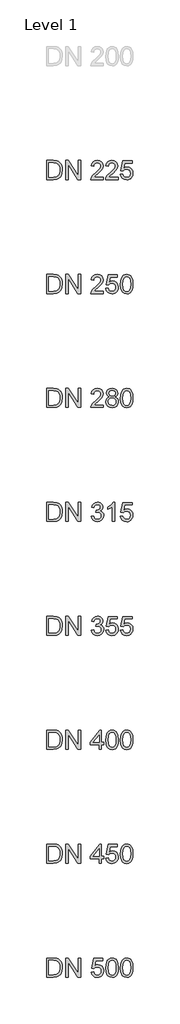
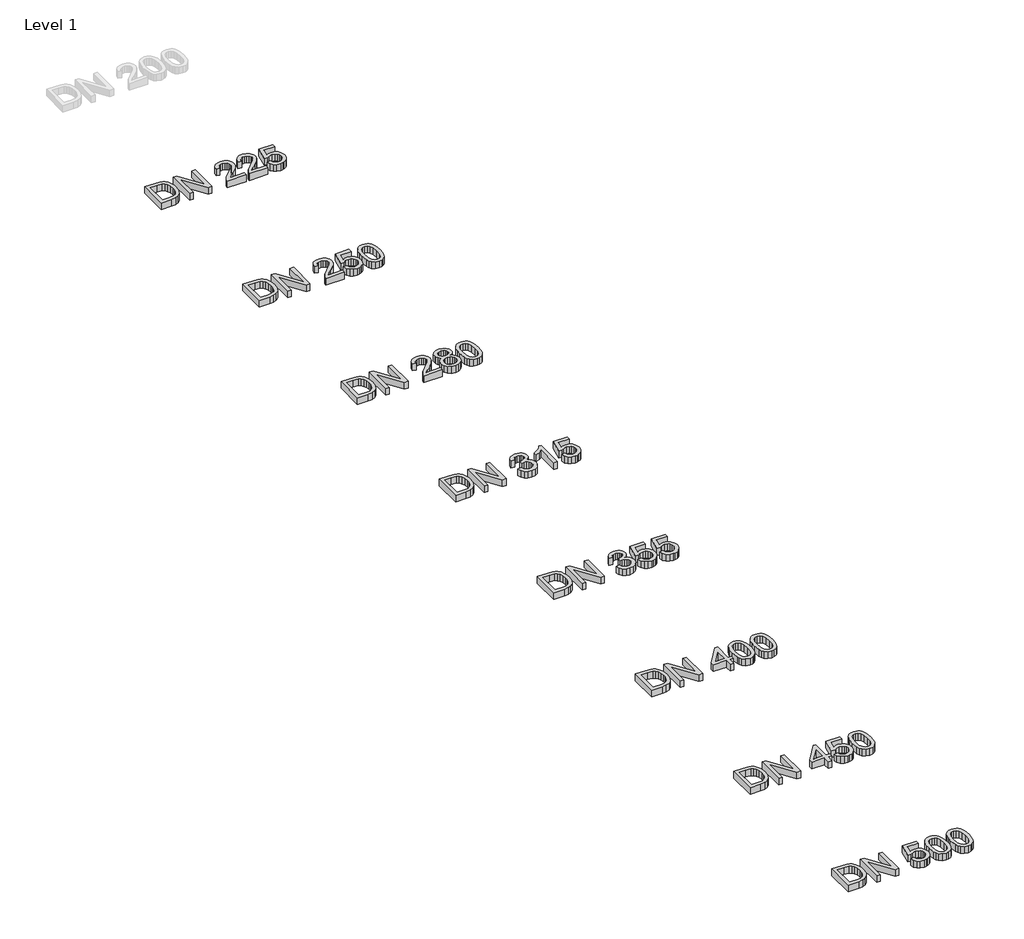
# One storey, part 12 of 17: 8 proxies.
"""IFC4 building model written with IfcOpenShell, lengths in millimetres."""

from ifc_helpers import new_model, si_unit, origin, origin_with_axes, place, context, project, spatial, polyline, outline, extrude, element, save

model = new_model("IFC4")

# Units and contexts
model_context = context("Model", 3, world=origin())
ifc_project = project(units=[si_unit("LENGTHUNIT", "METRE", prefix="MILLI")], contexts=[model_context])

# Site, building, storey
site = spatial("IfcSite", under=ifc_project)
building = spatial("IfcBuilding", under=site)
storey = spatial("IfcBuildingStorey", under=building, Name="Level 1", Elevation=0.0)

# Proxies
placement = place(None, origin())
element("IfcBuildingElementProxy", 1, Name="200mm Arial", ObjectType="200mm Arial", at=placement, inside=storey, context=model_context, shape_type="SweptSolid", body=[
    extrude(outline(polyline([(25539.3076926, -15113.949573), (25539.3076926, -14913.0369527), (25608.6166605, -14913.0369527), (25644.4728923, -14915.9309577), (25660.4880218, -14921.5105013), (25674.0015538, -14930.302881), (25687.8952305, -14945.606772), (25697.7912562, -14964.6385338), (25703.7141563, -14987.0302846), (25705.6884563, -15012.4141423), (25700.3419047, -15052.9547382), (25686.6076435, -15082.2136195), (25668.2625947, -15100.436041), (25644.2521631, -15110.5160077), (25611.9521239, -15113.949573), (25539.3076926, -15113.949573)]), holes=[polyline([(25564.4217702, -15088.8354954), (25608.8619152, -15088.8354954), (25641.1864798, -15085.2057264), (25659.8258342, -15074.9540815), (25668.5507689, -15064.0831685), (25675.1051998, -15050.0116822), (25679.207084, -15032.6783089), (25680.5743788, -15012.0217348), (25677.8949716, -14984.6513144), (25669.85675, -14964.4423301), (25657.9802929, -14950.5609162), (25643.7861793, -14942.1732067), (25608.1752021, -14938.1510302), (25564.4217702, -14938.1510302), (25564.4217702, -15088.8354954)])]), origin_with_axes(), (0.0, 0.0, 1.0), 50.0),
    extrude(outline(polyline([(25740.2203129, -15113.949573), (25740.2203129, -14913.0369527), (25767.100224, -14913.0369527), (25872.06922, -15072.2072292), (25872.06922, -14913.0369527), (25897.1832975, -14913.0369527), (25897.1832975, -15113.949573), (25870.3033864, -15113.949573), (25765.3343905, -14954.7302454), (25765.3343905, -15113.949573), (25740.2203129, -15113.949573)])), origin_with_axes(), (0.0, 0.0, 1.0), 50.0),
    extrude(outline(polyline([(26138.9062938, -15088.8354954), (26138.9062938, -15113.949573), (26007.0573868, -15113.949573), (26009.7551881, -15096.6345937), (26025.0100281, -15069.9754118), (26056.451676, -15040.8636832), (26099.8127005, -14999.0232377), (26107.9428926, -14984.6022634), (26110.6529566, -14970.5736967), (26108.0961767, -14957.9982638), (26100.4258371, -14947.5442838), (26088.6352192, -14940.4993436), (26073.7176043, -14938.1510302), (26058.0519627, -14940.4441613), (26045.8812, -14947.3235546), (26038.0269194, -14958.2496499), (26035.310724, -14972.6828868), (26010.1966465, -14969.5436271), (26016.2850935, -14945.2511527), (26029.4491375, -14927.5069778), (26049.0020656, -14916.6544589), (26074.2571645, -14913.0369527), (26099.6962045, -14917.0591291), (26119.2123444, -14929.1256586), (26131.6283617, -14947.1518763), (26135.7670341, -14969.0531178), (26131.3033993, -14992.8673456), (26116.4654921, -15017.4909138), (26080.486633, -15051.9001431), (26051.5956336, -15076.0577275), (26040.2648682, -15088.8354954), (26138.9062938, -15088.8354954)])), origin_with_axes(), (0.0, 0.0, 1.0), 50.0),
    extrude(outline(polyline([(26164.0203714, -15060.5821582), (26189.1344489, -15057.4428985), (26193.7452366, -15072.5199289), (26201.7895895, -15083.3172655), (26213.2307196, -15089.8103827), (26228.0318385, -15091.9747551), (26246.0335308, -15088.9642541), (26259.5225373, -15079.9327511), (26267.947035, -15065.9225785), (26270.7552009, -15047.9760685), (26268.1248446, -15031.0780222), (26260.2337758, -15018.1531014), (26247.0206809, -15009.9493329), (26228.424246, -15007.2147434), (26206.3758518, -15011.5802764), (26192.2737086, -15022.9110419), (26167.1596311, -15019.7717822), (26189.1344489, -14916.1762123), (26286.4514994, -14916.1762123), (26286.4514994, -14941.2902899), (26209.441535, -14941.2902899), (26198.6993808, -14996.619742), (26216.6397594, -14985.7304349), (26235.4385294, -14982.1006659), (26258.9032693, -14986.601089), (26278.3826209, -15000.1023582), (26291.4976141, -15020.6792244), (26295.8692784, -15046.4064386), (26291.9329411, -15071.5205162), (26280.123929, -15093.0048247), (26269.6883431, -15103.5415782), (26257.5114491, -15111.0678307), (26243.5932469, -15115.5835821), (26227.9337367, -15117.0888326), (26203.2672489, -15113.2199403), (26183.616219, -15101.6132634), (26170.1456066, -15083.6177025), (26164.0203714, -15060.5821582)])), origin_with_axes(), (0.0, 0.0, 1.0), 50.0),
    extrude(outline(polyline([(26317.8440963, -15015.1119436), (26319.6896376, -14982.9529258), (26325.2262617, -14957.3054194), (26334.3987861, -14937.7770168), (26347.1520286, -14923.9753106), (26363.5779597, -14915.7715422), (26383.7685498, -14913.0369527), (26399.2441191, -14914.6556334), (26413.1010076, -14919.5116758), (26424.6892904, -14927.4150073), (26433.3590428, -14938.1755557), (26445.1312666, -14967.9004209), (26449.6930034, -15015.1119436), (26447.8658561, -15047.0870203), (26442.3844144, -15072.6732131), (26433.2670723, -15092.2200098), (26420.5322239, -15106.0768983), (26404.0695046, -15114.335849), (26383.7685498, -15117.0888326), (26357.6734536, -15112.3063667), (26337.8568768, -15097.9589689), (26329.1012853, -15082.8298218), (26322.8472914, -15063.9789353), (26317.8440963, -15015.1119436)]), holes=[polyline([(26342.9581738, -15015.0628927), (26345.9012298, -15054.5672876), (26354.7303977, -15077.4311536), (26367.8760476, -15088.3388547), (26383.7685498, -15091.9747551), (26399.661052, -15088.326592), (26412.806702, -15077.3821026), (26421.6358699, -15054.5059739), (26424.5789258, -15015.0628927), (26421.7339717, -14976.4475459), (26413.1991094, -14953.4058703), (26400.0779849, -14941.9647402), (26383.4742442, -14938.1510302), (26367.7534203, -14941.5110191), (26355.1228051, -14951.5909857), (26345.9993317, -14976.0674012), (26342.9581738, -15015.0628927)])]), origin_with_axes(), (0.0, 0.0, 1.0), 50.0),
])
element("IfcBuildingElementProxy", 2, Name="200mm Arial", ObjectType="200mm Arial", at=placement, inside=storey, context=model_context, shape_type="SweptSolid", body=[
    extrude(outline(polyline([(25539.3076926, -17513.949573), (25539.3076926, -17313.0369527), (25608.6166605, -17313.0369527), (25644.4728923, -17315.9309577), (25660.4880218, -17321.5105013), (25674.0015538, -17330.302881), (25687.8952305, -17345.606772), (25697.7912562, -17364.6385338), (25703.7141563, -17387.0302846), (25705.6884563, -17412.4141423), (25700.3419047, -17452.9547382), (25686.6076435, -17482.2136195), (25668.2625947, -17500.436041), (25644.2521631, -17510.5160077), (25611.9521239, -17513.949573), (25539.3076926, -17513.949573)]), holes=[polyline([(25564.4217702, -17488.8354954), (25608.8619152, -17488.8354954), (25641.1864798, -17485.2057264), (25659.8258342, -17474.9540815), (25668.5507689, -17464.0831685), (25675.1051998, -17450.0116822), (25679.207084, -17432.6783089), (25680.5743788, -17412.0217348), (25677.8949716, -17384.6513144), (25669.85675, -17364.4423301), (25657.9802929, -17350.5609162), (25643.7861793, -17342.1732067), (25608.1752021, -17338.1510302), (25564.4217702, -17338.1510302), (25564.4217702, -17488.8354954)])]), origin_with_axes(), (0.0, 0.0, 1.0), 50.0),
    extrude(outline(polyline([(25740.2203129, -17513.949573), (25740.2203129, -17313.0369527), (25767.100224, -17313.0369527), (25872.06922, -17472.2072292), (25872.06922, -17313.0369527), (25897.1832975, -17313.0369527), (25897.1832975, -17513.949573), (25870.3033864, -17513.949573), (25765.3343905, -17354.7302454), (25765.3343905, -17513.949573), (25740.2203129, -17513.949573)])), origin_with_axes(), (0.0, 0.0, 1.0), 50.0),
    extrude(outline(polyline([(26010.1966465, -17460.5821582), (26035.310724, -17457.4428985), (26040.9331872, -17473.2250361), (26049.1676125, -17483.8813512), (26060.4186702, -17489.9514041), (26075.0910304, -17491.9747551), (26092.3079078, -17489.1911147), (26105.6007105, -17480.8401934), (26114.0987846, -17468.3812565), (26116.931476, -17453.2735692), (26114.1233101, -17438.9323028), (26105.6988124, -17427.3011004), (26092.9455699, -17419.5939726), (26077.1511696, -17417.02493), (26059.5418847, -17419.7717822), (26062.3377879, -17394.6577047), (26066.3599644, -17394.9520102), (26081.406338, -17393.1493885), (26094.8585563, -17387.7415231), (26104.3499118, -17378.5935242), (26107.5136969, -17365.5705016), (26105.2205658, -17354.7241141), (26098.3411725, -17345.925603), (26087.8442729, -17340.0946734), (26074.6986229, -17338.1510302), (26061.5284475, -17340.1130675), (26050.7617678, -17345.9991794), (26042.9013558, -17355.809366), (26038.4499837, -17369.5436271), (26013.3359061, -17366.4043674), (26020.7303343, -17343.8532011), (26033.8882469, -17327.0164685), (26051.8899392, -17316.5318316), (26073.8157062, -17313.0369527), (26089.6039751, -17314.7598667), (26104.1046571, -17319.9286087), (26116.3306021, -17328.0833263), (26125.29466, -17338.7641669), (26130.7944958, -17351.0698196), (26132.6277745, -17364.0989736), (26130.8864663, -17376.2390794), (26125.662542, -17387.2510138), (26117.0295779, -17396.6320047), (26105.0611503, -17403.87928), (26120.7819742, -17410.2313758), (26132.4315707, -17421.0471064), (26139.6420578, -17435.7378608), (26142.0455535, -17453.7150276), (26137.2385621, -17478.191443), (26122.8175879, -17498.645682), (26101.0512365, -17512.478045), (26074.2081136, -17517.0888326), (26049.9279019, -17513.1524953), (26030.1603761, -17501.3434833), (26016.4138522, -17483.2804773), (26010.1966465, -17460.5821582)])), origin_with_axes(), (0.0, 0.0, 1.0), 50.0),
    extrude(outline(polyline([(26258.1981621, -17513.949573), (26233.0840846, -17513.949573), (26233.0840846, -17357.3789958), (26209.2943822, -17374.3260931), (26182.8559295, -17387.0057592), (26182.8559295, -17363.2651077), (26219.6686545, -17339.769711), (26233.1392669, -17326.1948653), (26242.0113543, -17313.0369527), (26258.1981621, -17313.0369527), (26258.1981621, -17513.949573)])), origin_with_axes(), (0.0, 0.0, 1.0), 50.0),
    extrude(outline(polyline([(26317.8440963, -17460.5821582), (26342.9581738, -17457.4428985), (26347.5689615, -17472.5199289), (26355.6133145, -17483.3172655), (26367.0544445, -17489.8103827), (26381.8555634, -17491.9747551), (26399.8572557, -17488.9642541), (26413.3462622, -17479.9327511), (26421.7707599, -17465.9225785), (26424.5789258, -17447.9760685), (26421.9485696, -17431.0780222), (26414.0575008, -17418.1531014), (26400.8444058, -17409.9493329), (26382.2479709, -17407.2147434), (26360.1995767, -17411.5802764), (26346.0974335, -17422.9110419), (26320.983356, -17419.7717822), (26342.9581738, -17316.1762123), (26440.2752243, -17316.1762123), (26440.2752243, -17341.2902899), (26363.26526, -17341.2902899), (26352.5231057, -17396.619742), (26370.4634843, -17385.7304349), (26389.2622543, -17382.1006659), (26412.7269942, -17386.601089), (26432.2063459, -17400.1023582), (26445.321339, -17420.6792244), (26449.6930034, -17446.4064386), (26445.756666, -17471.5205162), (26433.947654, -17493.0048247), (26423.512068, -17503.5415782), (26411.335174, -17511.0678307), (26397.4169718, -17515.5835821), (26381.7574616, -17517.0888326), (26357.0909738, -17513.2199403), (26337.4399439, -17501.6132634), (26323.9693315, -17483.6177025), (26317.8440963, -17460.5821582)])), origin_with_axes(), (0.0, 0.0, 1.0), 50.0),
])
element("IfcBuildingElementProxy", 3, Name="200mm Arial", ObjectType="200mm Arial", at=placement, inside=storey, context=model_context, shape_type="SweptSolid", body=[
    extrude(outline(polyline([(25539.3076926, -19913.949573), (25539.3076926, -19713.0369527), (25608.6166605, -19713.0369527), (25644.4728923, -19715.9309577), (25660.4880218, -19721.5105013), (25674.0015538, -19730.302881), (25687.8952305, -19745.606772), (25697.7912562, -19764.6385338), (25703.7141563, -19787.0302846), (25705.6884563, -19812.4141423), (25700.3419047, -19852.9547382), (25686.6076435, -19882.2136195), (25668.2625947, -19900.436041), (25644.2521631, -19910.5160077), (25611.9521239, -19913.949573), (25539.3076926, -19913.949573)]), holes=[polyline([(25564.4217702, -19888.8354954), (25608.8619152, -19888.8354954), (25641.1864798, -19885.2057264), (25659.8258342, -19874.9540815), (25668.5507689, -19864.0831685), (25675.1051998, -19850.0116822), (25679.207084, -19832.6783089), (25680.5743788, -19812.0217348), (25677.8949716, -19784.6513144), (25669.85675, -19764.4423301), (25657.9802929, -19750.5609162), (25643.7861793, -19742.1732067), (25608.1752021, -19738.1510302), (25564.4217702, -19738.1510302), (25564.4217702, -19888.8354954)])]), origin_with_axes(), (0.0, 0.0, 1.0), 50.0),
    extrude(outline(polyline([(25740.2203129, -19913.949573), (25740.2203129, -19713.0369527), (25767.100224, -19713.0369527), (25872.06922, -19872.2072292), (25872.06922, -19713.0369527), (25897.1832975, -19713.0369527), (25897.1832975, -19913.949573), (25870.3033864, -19913.949573), (25765.3343905, -19754.7302454), (25765.3343905, -19913.949573), (25740.2203129, -19913.949573)])), origin_with_axes(), (0.0, 0.0, 1.0), 50.0),
    extrude(outline(polyline([(26091.8173985, -19913.949573), (26091.8173985, -19866.8606776), (26000.7788674, -19866.8606776), (26000.7788674, -19841.7466), (26098.0959178, -19716.1762123), (26116.931476, -19716.1762123), (26116.931476, -19841.7466), (26142.0455535, -19841.7466), (26142.0455535, -19866.8606776), (26116.931476, -19866.8606776), (26116.931476, -19913.949573), (26091.8173985, -19913.949573)]), holes=[polyline([(26091.8173985, -19841.7466), (26091.8173985, -19764.1480245), (26031.680955, -19841.7466), (26091.8173985, -19841.7466)])]), origin_with_axes(), (0.0, 0.0, 1.0), 50.0),
    extrude(outline(polyline([(26164.0203714, -19815.1119436), (26165.8659127, -19782.9529258), (26171.4025367, -19757.3054194), (26180.5750612, -19737.7770168), (26193.3283037, -19723.9753106), (26209.7542347, -19715.7715422), (26229.9448249, -19713.0369527), (26245.4203942, -19714.6556334), (26259.2772827, -19719.5116758), (26270.8655655, -19727.4150073), (26279.5353179, -19738.1755557), (26291.3075417, -19767.9004209), (26295.8692784, -19815.1119436), (26294.0421312, -19847.0870203), (26288.5606895, -19872.6732131), (26279.4433474, -19892.2200098), (26266.708499, -19906.0768983), (26250.2457797, -19914.335849), (26229.9448249, -19917.0888326), (26203.8497287, -19912.3063667), (26184.0331519, -19897.9589689), (26175.2775604, -19882.8298218), (26169.0235665, -19863.9789353), (26164.0203714, -19815.1119436)]), holes=[polyline([(26189.1344489, -19815.0628927), (26192.0775049, -19854.5672876), (26200.9066728, -19877.4311536), (26214.0523227, -19888.3388547), (26229.9448249, -19891.9747551), (26245.8373271, -19888.326592), (26258.9829771, -19877.3821026), (26267.8121449, -19854.5059739), (26270.7552009, -19815.0628927), (26267.9102468, -19776.4475459), (26259.3753845, -19753.4058703), (26246.25426, -19741.9647402), (26229.6505193, -19738.1510302), (26213.9296954, -19741.5110191), (26201.2990802, -19751.5909857), (26192.1756067, -19776.0674012), (26189.1344489, -19815.0628927)])]), origin_with_axes(), (0.0, 0.0, 1.0), 50.0),
    extrude(outline(polyline([(26317.8440963, -19815.1119436), (26319.6896376, -19782.9529258), (26325.2262617, -19757.3054194), (26334.3987861, -19737.7770168), (26347.1520286, -19723.9753106), (26363.5779597, -19715.7715422), (26383.7685498, -19713.0369527), (26399.2441191, -19714.6556334), (26413.1010076, -19719.5116758), (26424.6892904, -19727.4150073), (26433.3590428, -19738.1755557), (26445.1312666, -19767.9004209), (26449.6930034, -19815.1119436), (26447.8658561, -19847.0870203), (26442.3844144, -19872.6732131), (26433.2670723, -19892.2200098), (26420.5322239, -19906.0768983), (26404.0695046, -19914.335849), (26383.7685498, -19917.0888326), (26357.6734536, -19912.3063667), (26337.8568768, -19897.9589689), (26329.1012853, -19882.8298218), (26322.8472914, -19863.9789353), (26317.8440963, -19815.1119436)]), holes=[polyline([(26342.9581738, -19815.0628927), (26345.9012298, -19854.5672876), (26354.7303977, -19877.4311536), (26367.8760476, -19888.3388547), (26383.7685498, -19891.9747551), (26399.661052, -19888.326592), (26412.806702, -19877.3821026), (26421.6358699, -19854.5059739), (26424.5789258, -19815.0628927), (26421.7339717, -19776.4475459), (26413.1991094, -19753.4058703), (26400.0779849, -19741.9647402), (26383.4742442, -19738.1510302), (26367.7534203, -19741.5110191), (26355.1228051, -19751.5909857), (26345.9993317, -19776.0674012), (26342.9581738, -19815.0628927)])]), origin_with_axes(), (0.0, 0.0, 1.0), 50.0),
])
element("IfcBuildingElementProxy", 4, Name="200mm Arial", ObjectType="200mm Arial", at=placement, inside=storey, context=model_context, shape_type="SweptSolid", body=[
    extrude(outline(polyline([(25539.3076926, -13913.949573), (25539.3076926, -13713.0369527), (25608.6166605, -13713.0369527), (25644.4728923, -13715.9309577), (25660.4880218, -13721.5105013), (25674.0015538, -13730.302881), (25687.8952305, -13745.606772), (25697.7912562, -13764.6385338), (25703.7141563, -13787.0302846), (25705.6884563, -13812.4141423), (25700.3419047, -13852.9547382), (25686.6076435, -13882.2136195), (25668.2625947, -13900.436041), (25644.2521631, -13910.5160077), (25611.9521239, -13913.949573), (25539.3076926, -13913.949573)]), holes=[polyline([(25564.4217702, -13888.8354954), (25608.8619152, -13888.8354954), (25641.1864798, -13885.2057264), (25659.8258342, -13874.9540815), (25668.5507689, -13864.0831685), (25675.1051998, -13850.0116822), (25679.207084, -13832.6783089), (25680.5743788, -13812.0217348), (25677.8949716, -13784.6513144), (25669.85675, -13764.4423301), (25657.9802929, -13750.5609162), (25643.7861793, -13742.1732067), (25608.1752021, -13738.1510302), (25564.4217702, -13738.1510302), (25564.4217702, -13888.8354954)])]), origin_with_axes(), (0.0, 0.0, 1.0), 50.0),
    extrude(outline(polyline([(25740.2203129, -13913.949573), (25740.2203129, -13713.0369527), (25767.100224, -13713.0369527), (25872.06922, -13872.2072292), (25872.06922, -13713.0369527), (25897.1832975, -13713.0369527), (25897.1832975, -13913.949573), (25870.3033864, -13913.949573), (25765.3343905, -13754.7302454), (25765.3343905, -13913.949573), (25740.2203129, -13913.949573)])), origin_with_axes(), (0.0, 0.0, 1.0), 50.0),
    extrude(outline(polyline([(26138.9062938, -13888.8354954), (26138.9062938, -13913.949573), (26007.0573868, -13913.949573), (26009.7551881, -13896.6345937), (26025.0100281, -13869.9754118), (26056.451676, -13840.8636832), (26099.8127005, -13799.0232377), (26107.9428926, -13784.6022634), (26110.6529566, -13770.5736967), (26108.0961767, -13757.9982638), (26100.4258371, -13747.5442838), (26088.6352192, -13740.4993436), (26073.7176043, -13738.1510302), (26058.0519627, -13740.4441613), (26045.8812, -13747.3235546), (26038.0269194, -13758.2496499), (26035.310724, -13772.6828868), (26010.1966465, -13769.5436271), (26016.2850935, -13745.2511527), (26029.4491375, -13727.5069778), (26049.0020656, -13716.6544589), (26074.2571645, -13713.0369527), (26099.6962045, -13717.0591291), (26119.2123444, -13729.1256586), (26131.6283617, -13747.1518763), (26135.7670341, -13769.0531178), (26131.3033993, -13792.8673456), (26116.4654921, -13817.4909138), (26080.486633, -13851.9001431), (26051.5956336, -13876.0577275), (26040.2648682, -13888.8354954), (26138.9062938, -13888.8354954)])), origin_with_axes(), (0.0, 0.0, 1.0), 50.0),
    extrude(outline(polyline([(26292.7300188, -13888.8354954), (26292.7300188, -13913.949573), (26160.8811117, -13913.949573), (26163.578913, -13896.6345937), (26178.833753, -13869.9754118), (26210.2754009, -13840.8636832), (26253.6364254, -13799.0232377), (26261.7666175, -13784.6022634), (26264.4766815, -13770.5736967), (26261.9199017, -13757.9982638), (26254.2495621, -13747.5442838), (26242.4589441, -13740.4993436), (26227.5413292, -13738.1510302), (26211.8756876, -13740.4441613), (26199.7049249, -13747.3235546), (26191.8506443, -13758.2496499), (26189.1344489, -13772.6828868), (26164.0203714, -13769.5436271), (26170.1088184, -13745.2511527), (26183.2728625, -13727.5069778), (26202.8257905, -13716.6544589), (26228.0808895, -13713.0369527), (26253.5199294, -13717.0591291), (26273.0360693, -13729.1256586), (26285.4520866, -13747.1518763), (26289.5907591, -13769.0531178), (26285.1271242, -13792.8673456), (26270.289217, -13817.4909138), (26234.3103579, -13851.9001431), (26205.4193586, -13876.0577275), (26194.0885931, -13888.8354954), (26292.7300188, -13888.8354954)])), origin_with_axes(), (0.0, 0.0, 1.0), 50.0),
    extrude(outline(polyline([(26317.8440963, -13860.5821582), (26342.9581738, -13857.4428985), (26347.5689615, -13872.5199289), (26355.6133145, -13883.3172655), (26367.0544445, -13889.8103827), (26381.8555634, -13891.9747551), (26399.8572557, -13888.9642541), (26413.3462622, -13879.9327511), (26421.7707599, -13865.9225785), (26424.5789258, -13847.9760685), (26421.9485696, -13831.0780222), (26414.0575008, -13818.1531014), (26400.8444058, -13809.9493329), (26382.2479709, -13807.2147434), (26360.1995767, -13811.5802764), (26346.0974335, -13822.9110419), (26320.983356, -13819.7717822), (26342.9581738, -13716.1762123), (26440.2752243, -13716.1762123), (26440.2752243, -13741.2902899), (26363.26526, -13741.2902899), (26352.5231057, -13796.619742), (26370.4634843, -13785.7304349), (26389.2622543, -13782.1006659), (26412.7269942, -13786.601089), (26432.2063459, -13800.1023582), (26445.321339, -13820.6792244), (26449.6930034, -13846.4064386), (26445.756666, -13871.5205162), (26433.947654, -13893.0048247), (26423.512068, -13903.5415782), (26411.335174, -13911.0678307), (26397.4169718, -13915.5835821), (26381.7574616, -13917.0888326), (26357.0909738, -13913.2199403), (26337.4399439, -13901.6132634), (26323.9693315, -13883.6177025), (26317.8440963, -13860.5821582)])), origin_with_axes(), (0.0, 0.0, 1.0), 50.0),
])
element("IfcBuildingElementProxy", 5, Name="200mm Arial", ObjectType="200mm Arial", at=placement, inside=storey, context=model_context, shape_type="SweptSolid", body=[
    extrude(outline(polyline([(25539.3076926, -16313.949573), (25539.3076926, -16113.0369527), (25608.6166605, -16113.0369527), (25644.4728923, -16115.9309577), (25660.4880218, -16121.5105013), (25674.0015538, -16130.302881), (25687.8952305, -16145.606772), (25697.7912562, -16164.6385338), (25703.7141563, -16187.0302846), (25705.6884563, -16212.4141423), (25700.3419047, -16252.9547382), (25686.6076435, -16282.2136195), (25668.2625947, -16300.436041), (25644.2521631, -16310.5160077), (25611.9521239, -16313.949573), (25539.3076926, -16313.949573)]), holes=[polyline([(25564.4217702, -16288.8354954), (25608.8619152, -16288.8354954), (25641.1864798, -16285.2057264), (25659.8258342, -16274.9540815), (25668.5507689, -16264.0831685), (25675.1051998, -16250.0116822), (25679.207084, -16232.6783089), (25680.5743788, -16212.0217348), (25677.8949716, -16184.6513144), (25669.85675, -16164.4423301), (25657.9802929, -16150.5609162), (25643.7861793, -16142.1732067), (25608.1752021, -16138.1510302), (25564.4217702, -16138.1510302), (25564.4217702, -16288.8354954)])]), origin_with_axes(), (0.0, 0.0, 1.0), 50.0),
    extrude(outline(polyline([(25740.2203129, -16313.949573), (25740.2203129, -16113.0369527), (25767.100224, -16113.0369527), (25872.06922, -16272.2072292), (25872.06922, -16113.0369527), (25897.1832975, -16113.0369527), (25897.1832975, -16313.949573), (25870.3033864, -16313.949573), (25765.3343905, -16154.7302454), (25765.3343905, -16313.949573), (25740.2203129, -16313.949573)])), origin_with_axes(), (0.0, 0.0, 1.0), 50.0),
    extrude(outline(polyline([(26138.9062938, -16288.8354954), (26138.9062938, -16313.949573), (26007.0573868, -16313.949573), (26009.7551881, -16296.6345937), (26025.0100281, -16269.9754118), (26056.451676, -16240.8636832), (26099.8127005, -16199.0232377), (26107.9428926, -16184.6022634), (26110.6529566, -16170.5736967), (26108.0961767, -16157.9982638), (26100.4258371, -16147.5442838), (26088.6352192, -16140.4993436), (26073.7176043, -16138.1510302), (26058.0519627, -16140.4441613), (26045.8812, -16147.3235546), (26038.0269194, -16158.2496499), (26035.310724, -16172.6828868), (26010.1966465, -16169.5436271), (26016.2850935, -16145.2511527), (26029.4491375, -16127.5069778), (26049.0020656, -16116.6544589), (26074.2571645, -16113.0369527), (26099.6962045, -16117.0591291), (26119.2123444, -16129.1256586), (26131.6283617, -16147.1518763), (26135.7670341, -16169.0531178), (26131.3033993, -16192.8673456), (26116.4654921, -16217.4909138), (26080.486633, -16251.9001431), (26051.5956336, -16276.0577275), (26040.2648682, -16288.8354954), (26138.9062938, -16288.8354954)])), origin_with_axes(), (0.0, 0.0, 1.0), 50.0),
    extrude(outline(polyline([(26200.6123672, -16203.2906688), (26187.1662802, -16196.6687929), (26177.7301071, -16187.6924722), (26172.1566948, -16176.5456478), (26170.2988908, -16163.4122605), (26174.3455927, -16143.7796247), (26186.4856985, -16127.5560287), (26205.3580449, -16116.6667217), (26229.6014684, -16113.0369527), (26253.9920447, -16116.7525608), (26273.1096457, -16127.8993853), (26285.4704807, -16144.3804986), (26289.5907591, -16164.0989736), (26287.7574804, -16176.8092965), (26282.2576446, -16187.7660486), (26273.0299379, -16196.687187), (26260.0130466, -16203.2906688), (26275.4702218, -16211.255314), (26286.7212795, -16222.9846183), (26293.5822787, -16237.9144959), (26295.8692784, -16255.4808612), (26291.3320672, -16279.4912927), (26277.7204333, -16299.332395), (26256.7021087, -16312.6497232), (26229.9448249, -16317.0888326), (26203.1875411, -16312.6313291), (26182.1692165, -16299.2588186), (26168.5575826, -16279.227644), (26164.0203714, -16254.7941481), (26166.3993416, -16236.5472012), (26173.5362523, -16221.5376158), (26185.0632215, -16210.2804267), (26200.6123672, -16203.2906688)]), holes=[polyline([(26189.1344489, -16253.9112313), (26193.3283037, -16272.8203659), (26199.1347078, -16280.9321639), (26208.1662108, -16286.97156), (26230.1410286, -16291.9747551), (26247.2352787, -16289.3443988), (26260.0620976, -16281.45333), (26268.0819251, -16269.5032966), (26270.7552009, -16254.6960463), (26267.9960859, -16239.6374099), (26259.7187411, -16227.4237277), (26246.5976166, -16219.3303238), (26229.3071628, -16216.6325225), (26212.452036, -16219.2935356), (26199.7539758, -16227.2765749), (26191.7893306, -16239.2572652), (26189.1344489, -16253.9112313)]), polyline([(26195.4129683, -16164.1480245), (26197.6386544, -16175.110908), (26204.3157126, -16183.8664995), (26215.2479392, -16189.6054586), (26230.2391305, -16191.518445), (26244.8808339, -16189.6177213), (26255.6475136, -16183.9155504), (26262.2693896, -16175.4542645), (26264.4766815, -16165.276196), (26262.1958132, -16154.7118513), (26255.353208, -16145.974654), (26244.4393755, -16140.1069361), (26229.9448249, -16138.1510302), (26215.3583038, -16140.0640166), (26204.4628654, -16145.8029757), (26197.6754426, -16154.2152106), (26195.4129683, -16164.1480245)])]), origin_with_axes(), (0.0, 0.0, 1.0), 50.0),
    extrude(outline(polyline([(26317.8440963, -16215.1119436), (26319.6896376, -16182.9529258), (26325.2262617, -16157.3054194), (26334.3987861, -16137.7770168), (26347.1520286, -16123.9753106), (26363.5779597, -16115.7715422), (26383.7685498, -16113.0369527), (26399.2441191, -16114.6556334), (26413.1010076, -16119.5116758), (26424.6892904, -16127.4150073), (26433.3590428, -16138.1755557), (26445.1312666, -16167.9004209), (26449.6930034, -16215.1119436), (26447.8658561, -16247.0870203), (26442.3844144, -16272.6732131), (26433.2670723, -16292.2200098), (26420.5322239, -16306.0768983), (26404.0695046, -16314.335849), (26383.7685498, -16317.0888326), (26357.6734536, -16312.3063667), (26337.8568768, -16297.9589689), (26329.1012853, -16282.8298218), (26322.8472914, -16263.9789353), (26317.8440963, -16215.1119436)]), holes=[polyline([(26342.9581738, -16215.0628927), (26345.9012298, -16254.5672876), (26354.7303977, -16277.4311536), (26367.8760476, -16288.3388547), (26383.7685498, -16291.9747551), (26399.661052, -16288.326592), (26412.806702, -16277.3821026), (26421.6358699, -16254.5059739), (26424.5789258, -16215.0628927), (26421.7339717, -16176.4475459), (26413.1991094, -16153.4058703), (26400.0779849, -16141.9647402), (26383.4742442, -16138.1510302), (26367.7534203, -16141.5110191), (26355.1228051, -16151.5909857), (26345.9993317, -16176.0674012), (26342.9581738, -16215.0628927)])]), origin_with_axes(), (0.0, 0.0, 1.0), 50.0),
])
element("IfcBuildingElementProxy", 6, Name="200mm Arial", ObjectType="200mm Arial", at=placement, inside=storey, context=model_context, shape_type="SweptSolid", body=[
    extrude(outline(polyline([(25539.3076926, -18713.949573), (25539.3076926, -18513.0369527), (25608.6166605, -18513.0369527), (25644.4728923, -18515.9309577), (25660.4880218, -18521.5105013), (25674.0015538, -18530.302881), (25687.8952305, -18545.606772), (25697.7912562, -18564.6385338), (25703.7141563, -18587.0302846), (25705.6884563, -18612.4141423), (25700.3419047, -18652.9547382), (25686.6076435, -18682.2136195), (25668.2625947, -18700.436041), (25644.2521631, -18710.5160077), (25611.9521239, -18713.949573), (25539.3076926, -18713.949573)]), holes=[polyline([(25564.4217702, -18688.8354954), (25608.8619152, -18688.8354954), (25641.1864798, -18685.2057264), (25659.8258342, -18674.9540815), (25668.5507689, -18664.0831685), (25675.1051998, -18650.0116822), (25679.207084, -18632.6783089), (25680.5743788, -18612.0217348), (25677.8949716, -18584.6513144), (25669.85675, -18564.4423301), (25657.9802929, -18550.5609162), (25643.7861793, -18542.1732067), (25608.1752021, -18538.1510302), (25564.4217702, -18538.1510302), (25564.4217702, -18688.8354954)])]), origin_with_axes(), (0.0, 0.0, 1.0), 50.0),
    extrude(outline(polyline([(25740.2203129, -18713.949573), (25740.2203129, -18513.0369527), (25767.100224, -18513.0369527), (25872.06922, -18672.2072292), (25872.06922, -18513.0369527), (25897.1832975, -18513.0369527), (25897.1832975, -18713.949573), (25870.3033864, -18713.949573), (25765.3343905, -18554.7302454), (25765.3343905, -18713.949573), (25740.2203129, -18713.949573)])), origin_with_axes(), (0.0, 0.0, 1.0), 50.0),
    extrude(outline(polyline([(26010.1966465, -18660.5821582), (26035.310724, -18657.4428985), (26040.9331872, -18673.2250361), (26049.1676125, -18683.8813512), (26060.4186702, -18689.9514041), (26075.0910304, -18691.9747551), (26092.3079078, -18689.1911147), (26105.6007105, -18680.8401934), (26114.0987846, -18668.3812565), (26116.931476, -18653.2735692), (26114.1233101, -18638.9323028), (26105.6988124, -18627.3011004), (26092.9455699, -18619.5939726), (26077.1511696, -18617.02493), (26059.5418847, -18619.7717822), (26062.3377879, -18594.6577047), (26066.3599644, -18594.9520102), (26081.406338, -18593.1493885), (26094.8585563, -18587.7415231), (26104.3499118, -18578.5935242), (26107.5136969, -18565.5705016), (26105.2205658, -18554.7241141), (26098.3411725, -18545.925603), (26087.8442729, -18540.0946734), (26074.6986229, -18538.1510302), (26061.5284475, -18540.1130675), (26050.7617678, -18545.9991794), (26042.9013558, -18555.809366), (26038.4499837, -18569.5436271), (26013.3359061, -18566.4043674), (26020.7303343, -18543.8532011), (26033.8882469, -18527.0164685), (26051.8899392, -18516.5318316), (26073.8157062, -18513.0369527), (26089.6039751, -18514.7598667), (26104.1046571, -18519.9286087), (26116.3306021, -18528.0833263), (26125.29466, -18538.7641669), (26130.7944958, -18551.0698196), (26132.6277745, -18564.0989736), (26130.8864663, -18576.2390794), (26125.662542, -18587.2510138), (26117.0295779, -18596.6320047), (26105.0611503, -18603.87928), (26120.7819742, -18610.2313758), (26132.4315707, -18621.0471064), (26139.6420578, -18635.7378608), (26142.0455535, -18653.7150276), (26137.2385621, -18678.191443), (26122.8175879, -18698.645682), (26101.0512365, -18712.478045), (26074.2081136, -18717.0888326), (26049.9279019, -18713.1524953), (26030.1603761, -18701.3434833), (26016.4138522, -18683.2804773), (26010.1966465, -18660.5821582)])), origin_with_axes(), (0.0, 0.0, 1.0), 50.0),
    extrude(outline(polyline([(26164.0203714, -18660.5821582), (26189.1344489, -18657.4428985), (26193.7452366, -18672.5199289), (26201.7895895, -18683.3172655), (26213.2307196, -18689.8103827), (26228.0318385, -18691.9747551), (26246.0335308, -18688.9642541), (26259.5225373, -18679.9327511), (26267.947035, -18665.9225785), (26270.7552009, -18647.9760685), (26268.1248446, -18631.0780222), (26260.2337758, -18618.1531014), (26247.0206809, -18609.9493329), (26228.424246, -18607.2147434), (26206.3758518, -18611.5802764), (26192.2737086, -18622.9110419), (26167.1596311, -18619.7717822), (26189.1344489, -18516.1762123), (26286.4514994, -18516.1762123), (26286.4514994, -18541.2902899), (26209.441535, -18541.2902899), (26198.6993808, -18596.619742), (26216.6397594, -18585.7304349), (26235.4385294, -18582.1006659), (26258.9032693, -18586.601089), (26278.3826209, -18600.1023582), (26291.4976141, -18620.6792244), (26295.8692784, -18646.4064386), (26291.9329411, -18671.5205162), (26280.123929, -18693.0048247), (26269.6883431, -18703.5415782), (26257.5114491, -18711.0678307), (26243.5932469, -18715.5835821), (26227.9337367, -18717.0888326), (26203.2672489, -18713.2199403), (26183.616219, -18701.6132634), (26170.1456066, -18683.6177025), (26164.0203714, -18660.5821582)])), origin_with_axes(), (0.0, 0.0, 1.0), 50.0),
    extrude(outline(polyline([(26317.8440963, -18660.5821582), (26342.9581738, -18657.4428985), (26347.5689615, -18672.5199289), (26355.6133145, -18683.3172655), (26367.0544445, -18689.8103827), (26381.8555634, -18691.9747551), (26399.8572557, -18688.9642541), (26413.3462622, -18679.9327511), (26421.7707599, -18665.9225785), (26424.5789258, -18647.9760685), (26421.9485696, -18631.0780222), (26414.0575008, -18618.1531014), (26400.8444058, -18609.9493329), (26382.2479709, -18607.2147434), (26360.1995767, -18611.5802764), (26346.0974335, -18622.9110419), (26320.983356, -18619.7717822), (26342.9581738, -18516.1762123), (26440.2752243, -18516.1762123), (26440.2752243, -18541.2902899), (26363.26526, -18541.2902899), (26352.5231057, -18596.619742), (26370.4634843, -18585.7304349), (26389.2622543, -18582.1006659), (26412.7269942, -18586.601089), (26432.2063459, -18600.1023582), (26445.321339, -18620.6792244), (26449.6930034, -18646.4064386), (26445.756666, -18671.5205162), (26433.947654, -18693.0048247), (26423.512068, -18703.5415782), (26411.335174, -18711.0678307), (26397.4169718, -18715.5835821), (26381.7574616, -18717.0888326), (26357.0909738, -18713.2199403), (26337.4399439, -18701.6132634), (26323.9693315, -18683.6177025), (26317.8440963, -18660.5821582)])), origin_with_axes(), (0.0, 0.0, 1.0), 50.0),
])
element("IfcBuildingElementProxy", 7, Name="200mm Arial", ObjectType="200mm Arial", at=placement, inside=storey, context=model_context, shape_type="SweptSolid", body=[
    extrude(outline(polyline([(25539.3076926, -22313.949573), (25539.3076926, -22113.0369527), (25608.6166605, -22113.0369527), (25644.4728923, -22115.9309577), (25660.4880218, -22121.5105013), (25674.0015538, -22130.302881), (25687.8952305, -22145.606772), (25697.7912562, -22164.6385338), (25703.7141563, -22187.0302846), (25705.6884563, -22212.4141423), (25700.3419047, -22252.9547382), (25686.6076435, -22282.2136195), (25668.2625947, -22300.436041), (25644.2521631, -22310.5160077), (25611.9521239, -22313.949573), (25539.3076926, -22313.949573)]), holes=[polyline([(25564.4217702, -22288.8354954), (25608.8619152, -22288.8354954), (25641.1864798, -22285.2057264), (25659.8258342, -22274.9540815), (25668.5507689, -22264.0831685), (25675.1051998, -22250.0116822), (25679.207084, -22232.6783089), (25680.5743788, -22212.0217348), (25677.8949716, -22184.6513144), (25669.85675, -22164.4423301), (25657.9802929, -22150.5609162), (25643.7861793, -22142.1732067), (25608.1752021, -22138.1510302), (25564.4217702, -22138.1510302), (25564.4217702, -22288.8354954)])]), origin_with_axes(), (0.0, 0.0, 1.0), 50.0),
    extrude(outline(polyline([(25740.2203129, -22313.949573), (25740.2203129, -22113.0369527), (25767.100224, -22113.0369527), (25872.06922, -22272.2072292), (25872.06922, -22113.0369527), (25897.1832975, -22113.0369527), (25897.1832975, -22313.949573), (25870.3033864, -22313.949573), (25765.3343905, -22154.7302454), (25765.3343905, -22313.949573), (25740.2203129, -22313.949573)])), origin_with_axes(), (0.0, 0.0, 1.0), 50.0),
    extrude(outline(polyline([(26010.1966465, -22260.5821582), (26035.310724, -22257.4428985), (26039.9215117, -22272.5199289), (26047.9658646, -22283.3172655), (26059.4069947, -22289.8103827), (26074.2081136, -22291.9747551), (26092.2098059, -22288.9642541), (26105.6988124, -22279.9327511), (26114.1233101, -22265.9225785), (26116.931476, -22247.9760685), (26114.3011197, -22231.0780222), (26106.4100509, -22218.1531014), (26093.1969559, -22209.9493329), (26074.6005211, -22207.2147434), (26052.5521268, -22211.5802764), (26038.4499837, -22222.9110419), (26013.3359061, -22219.7717822), (26035.310724, -22116.1762123), (26132.6277745, -22116.1762123), (26132.6277745, -22141.2902899), (26055.6178101, -22141.2902899), (26044.8756559, -22196.619742), (26062.8160345, -22185.7304349), (26081.6148045, -22182.1006659), (26105.0795444, -22186.601089), (26124.558896, -22200.1023582), (26137.6738892, -22220.6792244), (26142.0455535, -22246.4064386), (26138.1092162, -22271.5205162), (26126.3002041, -22293.0048247), (26115.8646182, -22303.5415782), (26103.6877242, -22311.0678307), (26089.769522, -22315.5835821), (26074.1100118, -22317.0888326), (26049.443524, -22313.2199403), (26029.7924941, -22301.6132634), (26016.3218817, -22283.6177025), (26010.1966465, -22260.5821582)])), origin_with_axes(), (0.0, 0.0, 1.0), 50.0),
    extrude(outline(polyline([(26164.0203714, -22215.1119436), (26165.8659127, -22182.9529258), (26171.4025367, -22157.3054194), (26180.5750612, -22137.7770168), (26193.3283037, -22123.9753106), (26209.7542347, -22115.7715422), (26229.9448249, -22113.0369527), (26245.4203942, -22114.6556334), (26259.2772827, -22119.5116758), (26270.8655655, -22127.4150073), (26279.5353179, -22138.1755557), (26291.3075417, -22167.9004209), (26295.8692784, -22215.1119436), (26294.0421312, -22247.0870203), (26288.5606895, -22272.6732131), (26279.4433474, -22292.2200098), (26266.708499, -22306.0768983), (26250.2457797, -22314.335849), (26229.9448249, -22317.0888326), (26203.8497287, -22312.3063667), (26184.0331519, -22297.9589689), (26175.2775604, -22282.8298218), (26169.0235665, -22263.9789353), (26164.0203714, -22215.1119436)]), holes=[polyline([(26189.1344489, -22215.0628927), (26192.0775049, -22254.5672876), (26200.9066728, -22277.4311536), (26214.0523227, -22288.3388547), (26229.9448249, -22291.9747551), (26245.8373271, -22288.326592), (26258.9829771, -22277.3821026), (26267.8121449, -22254.5059739), (26270.7552009, -22215.0628927), (26267.9102468, -22176.4475459), (26259.3753845, -22153.4058703), (26246.25426, -22141.9647402), (26229.6505193, -22138.1510302), (26213.9296954, -22141.5110191), (26201.2990802, -22151.5909857), (26192.1756067, -22176.0674012), (26189.1344489, -22215.0628927)])]), origin_with_axes(), (0.0, 0.0, 1.0), 50.0),
    extrude(outline(polyline([(26317.8440963, -22215.1119436), (26319.6896376, -22182.9529258), (26325.2262617, -22157.3054194), (26334.3987861, -22137.7770168), (26347.1520286, -22123.9753106), (26363.5779597, -22115.7715422), (26383.7685498, -22113.0369527), (26399.2441191, -22114.6556334), (26413.1010076, -22119.5116758), (26424.6892904, -22127.4150073), (26433.3590428, -22138.1755557), (26445.1312666, -22167.9004209), (26449.6930034, -22215.1119436), (26447.8658561, -22247.0870203), (26442.3844144, -22272.6732131), (26433.2670723, -22292.2200098), (26420.5322239, -22306.0768983), (26404.0695046, -22314.335849), (26383.7685498, -22317.0888326), (26357.6734536, -22312.3063667), (26337.8568768, -22297.9589689), (26329.1012853, -22282.8298218), (26322.8472914, -22263.9789353), (26317.8440963, -22215.1119436)]), holes=[polyline([(26342.9581738, -22215.0628927), (26345.9012298, -22254.5672876), (26354.7303977, -22277.4311536), (26367.8760476, -22288.3388547), (26383.7685498, -22291.9747551), (26399.661052, -22288.326592), (26412.806702, -22277.3821026), (26421.6358699, -22254.5059739), (26424.5789258, -22215.0628927), (26421.7339717, -22176.4475459), (26413.1991094, -22153.4058703), (26400.0779849, -22141.9647402), (26383.4742442, -22138.1510302), (26367.7534203, -22141.5110191), (26355.1228051, -22151.5909857), (26345.9993317, -22176.0674012), (26342.9581738, -22215.0628927)])]), origin_with_axes(), (0.0, 0.0, 1.0), 50.0),
])
element("IfcBuildingElementProxy", 8, Name="200mm Arial", ObjectType="200mm Arial", at=placement, inside=storey, context=model_context, shape_type="SweptSolid", body=[
    extrude(outline(polyline([(25539.3076926, -21113.949573), (25539.3076926, -20913.0369527), (25608.6166605, -20913.0369527), (25644.4728923, -20915.9309577), (25660.4880218, -20921.5105013), (25674.0015538, -20930.302881), (25687.8952305, -20945.606772), (25697.7912562, -20964.6385338), (25703.7141563, -20987.0302846), (25705.6884563, -21012.4141423), (25700.3419047, -21052.9547382), (25686.6076435, -21082.2136195), (25668.2625947, -21100.436041), (25644.2521631, -21110.5160077), (25611.9521239, -21113.949573), (25539.3076926, -21113.949573)]), holes=[polyline([(25564.4217702, -21088.8354954), (25608.8619152, -21088.8354954), (25641.1864798, -21085.2057264), (25659.8258342, -21074.9540815), (25668.5507689, -21064.0831685), (25675.1051998, -21050.0116822), (25679.207084, -21032.6783089), (25680.5743788, -21012.0217348), (25677.8949716, -20984.6513144), (25669.85675, -20964.4423301), (25657.9802929, -20950.5609162), (25643.7861793, -20942.1732067), (25608.1752021, -20938.1510302), (25564.4217702, -20938.1510302), (25564.4217702, -21088.8354954)])]), origin_with_axes(), (0.0, 0.0, 1.0), 50.0),
    extrude(outline(polyline([(25740.2203129, -21113.949573), (25740.2203129, -20913.0369527), (25767.100224, -20913.0369527), (25872.06922, -21072.2072292), (25872.06922, -20913.0369527), (25897.1832975, -20913.0369527), (25897.1832975, -21113.949573), (25870.3033864, -21113.949573), (25765.3343905, -20954.7302454), (25765.3343905, -21113.949573), (25740.2203129, -21113.949573)])), origin_with_axes(), (0.0, 0.0, 1.0), 50.0),
    extrude(outline(polyline([(26091.8173985, -21113.949573), (26091.8173985, -21066.8606776), (26000.7788674, -21066.8606776), (26000.7788674, -21041.7466), (26098.0959178, -20916.1762123), (26116.931476, -20916.1762123), (26116.931476, -21041.7466), (26142.0455535, -21041.7466), (26142.0455535, -21066.8606776), (26116.931476, -21066.8606776), (26116.931476, -21113.949573), (26091.8173985, -21113.949573)]), holes=[polyline([(26091.8173985, -21041.7466), (26091.8173985, -20964.1480245), (26031.680955, -21041.7466), (26091.8173985, -21041.7466)])]), origin_with_axes(), (0.0, 0.0, 1.0), 50.0),
    extrude(outline(polyline([(26164.0203714, -21060.5821582), (26189.1344489, -21057.4428985), (26193.7452366, -21072.5199289), (26201.7895895, -21083.3172655), (26213.2307196, -21089.8103827), (26228.0318385, -21091.9747551), (26246.0335308, -21088.9642541), (26259.5225373, -21079.9327511), (26267.947035, -21065.9225785), (26270.7552009, -21047.9760685), (26268.1248446, -21031.0780222), (26260.2337758, -21018.1531014), (26247.0206809, -21009.9493329), (26228.424246, -21007.2147434), (26206.3758518, -21011.5802764), (26192.2737086, -21022.9110419), (26167.1596311, -21019.7717822), (26189.1344489, -20916.1762123), (26286.4514994, -20916.1762123), (26286.4514994, -20941.2902899), (26209.441535, -20941.2902899), (26198.6993808, -20996.619742), (26216.6397594, -20985.7304349), (26235.4385294, -20982.1006659), (26258.9032693, -20986.601089), (26278.3826209, -21000.1023582), (26291.4976141, -21020.6792244), (26295.8692784, -21046.4064386), (26291.9329411, -21071.5205162), (26280.123929, -21093.0048247), (26269.6883431, -21103.5415782), (26257.5114491, -21111.0678307), (26243.5932469, -21115.5835821), (26227.9337367, -21117.0888326), (26203.2672489, -21113.2199403), (26183.616219, -21101.6132634), (26170.1456066, -21083.6177025), (26164.0203714, -21060.5821582)])), origin_with_axes(), (0.0, 0.0, 1.0), 50.0),
    extrude(outline(polyline([(26317.8440963, -21015.1119436), (26319.6896376, -20982.9529258), (26325.2262617, -20957.3054194), (26334.3987861, -20937.7770168), (26347.1520286, -20923.9753106), (26363.5779597, -20915.7715422), (26383.7685498, -20913.0369527), (26399.2441191, -20914.6556334), (26413.1010076, -20919.5116758), (26424.6892904, -20927.4150073), (26433.3590428, -20938.1755557), (26445.1312666, -20967.9004209), (26449.6930034, -21015.1119436), (26447.8658561, -21047.0870203), (26442.3844144, -21072.6732131), (26433.2670723, -21092.2200098), (26420.5322239, -21106.0768983), (26404.0695046, -21114.335849), (26383.7685498, -21117.0888326), (26357.6734536, -21112.3063667), (26337.8568768, -21097.9589689), (26329.1012853, -21082.8298218), (26322.8472914, -21063.9789353), (26317.8440963, -21015.1119436)]), holes=[polyline([(26342.9581738, -21015.0628927), (26345.9012298, -21054.5672876), (26354.7303977, -21077.4311536), (26367.8760476, -21088.3388547), (26383.7685498, -21091.9747551), (26399.661052, -21088.326592), (26412.806702, -21077.3821026), (26421.6358699, -21054.5059739), (26424.5789258, -21015.0628927), (26421.7339717, -20976.4475459), (26413.1991094, -20953.4058703), (26400.0779849, -20941.9647402), (26383.4742442, -20938.1510302), (26367.7534203, -20941.5110191), (26355.1228051, -20951.5909857), (26345.9993317, -20976.0674012), (26342.9581738, -21015.0628927)])]), origin_with_axes(), (0.0, 0.0, 1.0), 50.0),
])

save(model, "model.ifc")
